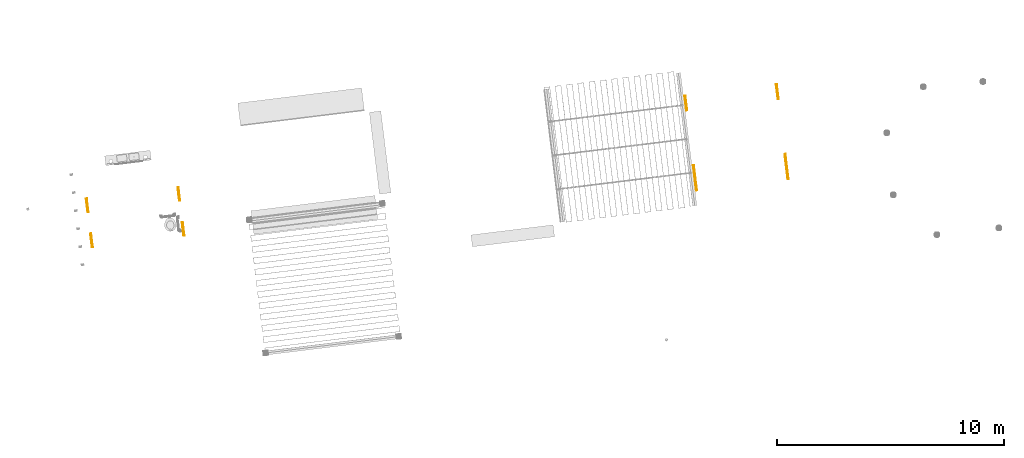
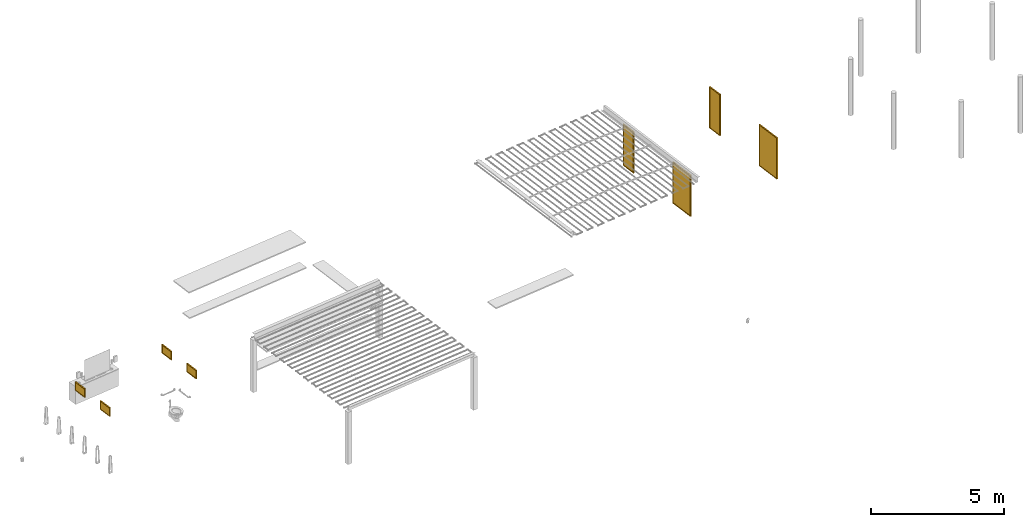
# One storey, part 2 of 10: 1 window.
"""IFC2X3 building model written with IfcOpenShell, lengths in metres."""

from ifc_helpers import new_model, entity, si_unit, converted_unit, derived_unit, direction, frame, frame_2d, origin, origin_2d_with_axis, place, context, subcontext, project, spatial, polyline, rectangle, outline, extrude, source, transform, mapped, material, material_list, type_object, type_shapes, element, save


model = new_model("IFC2X3")

# Units and contexts
model_context = context("Model", 3, precision=1e-05, world=origin(), true_north=direction((6.123031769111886e-17, 1.0)))
body_context = subcontext(model_context, "Body", "Model", "MODEL_VIEW")
ifc_project = project(units=[si_unit("LENGTHUNIT", "METRE"), si_unit("AREAUNIT", "SQUARE_METRE"), si_unit("VOLUMEUNIT", "CUBIC_METRE"), converted_unit("PLANEANGLEUNIT", "DEGREE", entity("IfcRatioMeasure", 0.017453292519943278), si_unit("PLANEANGLEUNIT", "RADIAN"), dimensions=[0, 0, 0, 0, 0, 0, 0]), si_unit("MASSUNIT", "GRAM", prefix="KILO"), derived_unit("MASSDENSITYUNIT", [(si_unit("MASSUNIT", "GRAM", prefix="KILO"), 1), (si_unit("LENGTHUNIT", "METRE"), -3)]), derived_unit("IONCONCENTRATIONUNIT", [(si_unit("MASSUNIT", "GRAM", prefix="KILO"), 1), (si_unit("LENGTHUNIT", "METRE"), -3)]), derived_unit("MOMENTOFINERTIAUNIT", [(si_unit("LENGTHUNIT", "METRE"), 4)]), si_unit("TIMEUNIT", "SECOND"), si_unit("FREQUENCYUNIT", "HERTZ"), si_unit("THERMODYNAMICTEMPERATUREUNIT", "DEGREE_CELSIUS"), derived_unit("THERMALTRANSMITTANCEUNIT", [(si_unit("MASSUNIT", "GRAM", prefix="KILO"), 1), (si_unit("THERMODYNAMICTEMPERATUREUNIT", "KELVIN"), -1), (si_unit("TIMEUNIT", "SECOND"), -3)]), derived_unit("THERMALCONDUCTANCEUNIT", [(si_unit("MASSUNIT", "GRAM", prefix="KILO"), 1), (si_unit("THERMODYNAMICTEMPERATUREUNIT", "KELVIN"), -1), (si_unit("TIMEUNIT", "SECOND"), -3), (si_unit("LENGTHUNIT", "METRE"), 1)]), derived_unit("VOLUMETRICFLOWRATEUNIT", [(si_unit("LENGTHUNIT", "METRE"), 3), (si_unit("TIMEUNIT", "SECOND"), -1)]), derived_unit("MASSFLOWRATEUNIT", [(si_unit("MASSUNIT", "GRAM", prefix="KILO"), 1), (si_unit("TIMEUNIT", "SECOND"), -1)]), derived_unit("ROTATIONALFREQUENCYUNIT", [(si_unit("TIMEUNIT", "SECOND"), -1)]), si_unit("ELECTRICCURRENTUNIT", "AMPERE"), si_unit("ELECTRICVOLTAGEUNIT", "VOLT"), si_unit("POWERUNIT", "WATT"), si_unit("FORCEUNIT", "NEWTON", prefix="KILO"), si_unit("ILLUMINANCEUNIT", "LUX"), si_unit("LUMINOUSFLUXUNIT", "LUMEN"), si_unit("LUMINOUSINTENSITYUNIT", "CANDELA"), derived_unit("USERDEFINED", [(si_unit("MASSUNIT", "GRAM", prefix="KILO"), -1), (si_unit("LENGTHUNIT", "METRE"), -2), (si_unit("TIMEUNIT", "SECOND"), 3), (si_unit("LUMINOUSFLUXUNIT", "LUMEN"), 1)]), derived_unit("USERDEFINED", [(si_unit("MASSUNIT", "GRAM", prefix="KILO"), 1), (si_unit("TIMEUNIT", "SECOND"), -3), (si_unit("LENGTHUNIT", "METRE"), 3), (si_unit("ELECTRICCURRENTUNIT", "AMPERE"), -2)]), derived_unit("SOUNDPOWERUNIT", [(si_unit("MASSUNIT", "GRAM", prefix="KILO"), 1), (si_unit("TIMEUNIT", "SECOND"), -3), (si_unit("LENGTHUNIT", "METRE"), 2)]), derived_unit("SOUNDPRESSUREUNIT", [(si_unit("MASSUNIT", "GRAM", prefix="KILO"), 1), (si_unit("LENGTHUNIT", "METRE"), -1), (si_unit("TIMEUNIT", "SECOND"), -2)]), derived_unit("LINEARVELOCITYUNIT", [(si_unit("LENGTHUNIT", "METRE"), 1), (si_unit("TIMEUNIT", "SECOND"), -1)]), si_unit("PRESSUREUNIT", "PASCAL"), derived_unit("USERDEFINED", [(si_unit("MASSUNIT", "GRAM", prefix="KILO"), 1), (si_unit("LENGTHUNIT", "METRE"), -2), (si_unit("TIMEUNIT", "SECOND"), -2)]), derived_unit("LINEARFORCEUNIT", [(si_unit("MASSUNIT", "GRAM", prefix="KILO"), 1), (si_unit("TIMEUNIT", "SECOND"), -2)]), derived_unit("PLANARFORCEUNIT", [(si_unit("MASSUNIT", "GRAM", prefix="KILO"), 1), (si_unit("LENGTHUNIT", "METRE"), -1), (si_unit("TIMEUNIT", "SECOND"), -2)]), derived_unit("SPECIFICHEATCAPACITYUNIT", [(si_unit("THERMODYNAMICTEMPERATUREUNIT", "KELVIN"), -1), (si_unit("LENGTHUNIT", "METRE"), 2), (si_unit("TIMEUNIT", "SECOND"), -2)]), derived_unit("HEATINGVALUEUNIT", [(si_unit("LENGTHUNIT", "METRE"), 2), (si_unit("TIMEUNIT", "SECOND"), -2)]), derived_unit("VAPORPERMEABILITYUNIT", [(si_unit("LENGTHUNIT", "METRE"), -1), (si_unit("TIMEUNIT", "SECOND"), 1)]), derived_unit("DYNAMICVISCOSITYUNIT", [(si_unit("MASSUNIT", "GRAM", prefix="KILO"), 1), (si_unit("TIMEUNIT", "SECOND"), -1), (si_unit("LENGTHUNIT", "METRE"), -1)]), derived_unit("THERMALEXPANSIONCOEFFICIENTUNIT", [(si_unit("THERMODYNAMICTEMPERATUREUNIT", "KELVIN"), -1)]), derived_unit("MODULUSOFELASTICITYUNIT", [(si_unit("MASSUNIT", "GRAM", prefix="KILO"), 1), (si_unit("LENGTHUNIT", "METRE"), -1), (si_unit("TIMEUNIT", "SECOND"), -2)]), derived_unit("ISOTHERMALMOISTURECAPACITYUNIT", [(si_unit("LENGTHUNIT", "METRE"), 3), (si_unit("MASSUNIT", "GRAM", prefix="KILO"), -1)]), derived_unit("MOISTUREDIFFUSIVITYUNIT", [(si_unit("TIMEUNIT", "SECOND"), -1), (si_unit("LENGTHUNIT", "METRE"), 2)])], contexts=[model_context])

# Site, building, storey
site_placement = place(None, origin())
site = spatial("IfcSite", under=ifc_project, at=site_placement, Name="Default", CompositionType="ELEMENT")
building_placement = place(site_placement, origin())
building = spatial("IfcBuilding", under=site, at=building_placement, Name="Projeto", CompositionType="ELEMENT")
storey_placement = place(building_placement, frame((0.0, 0.0, -2.581035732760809)))
storey = spatial("IfcBuildingStorey", under=building, at=storey_placement, Name="Nível 9", CompositionType="ELEMENT", Elevation=-2.581035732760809)

# Window
ifc_material_1 = material(Name="Vidro")
ifc_material_2 = material(Name=".Aço escovado")
ifc_material_list = material_list([ifc_material_1, ifc_material_2])
window_style = type_object("IfcWindowStyle", Name="Janelas 1:Janelas 1", ConstructionType="NOTDEFINED", OperationType="NOTDEFINED", ParameterTakesPrecedence=False, Sizeable=False, material=ifc_material_list)
shared_shape = source(origin(), body_context, "Body", "SweptSolid", [
    extrude(rectangle(XDim=0.009999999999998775, YDim=1.080000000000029, at=frame_2d((-2.6194324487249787e-16, -2.1649348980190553e-15), x_axis=(1.0, 0.0))), frame((12.318177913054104, 31.216350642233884, -2.29800209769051), z_axis=(0.0, 0.0, 1.0), x_axis=(0.9925113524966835, 0.12215242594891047, 0.0)), (0.0, 0.0, 1.0), 1.9000000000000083),
    extrude(rectangle(XDim=0.010000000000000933, YDim=0.6400000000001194, at=frame_2d((-5.37330596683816e-16, 8.326672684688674e-17), x_axis=(1.0, 0.0))), frame((7.8768535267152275, 34.0287467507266, -2.2780020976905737), z_axis=(0.0, 0.0, 1.0), x_axis=(0.9925113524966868, 0.1221524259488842, 0.0)), (0.0, 0.0, 1.0), 1.8600000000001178),
    extrude(rectangle(XDim=0.009999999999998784, YDim=0.6200000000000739, at=frame_2d((8.101158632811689e-16, -2.275957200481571e-15), x_axis=(1.0, 0.0))), frame((11.912161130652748, 34.51531308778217, -2.2780020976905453), z_axis=(0.0, 0.0, 1.0), x_axis=(0.9925113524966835, 0.12215242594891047, 0.0)), (0.0, 0.0, 1.0), 1.8600000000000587),
    extrude(rectangle(XDim=0.010683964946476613, YDim=0.565212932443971, at=origin_2d_with_axis()), frame((-18.509084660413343, 29.511886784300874, -0.6098354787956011), z_axis=(0.0, 0.0, 1.0), x_axis=(-0.9925113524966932, -0.12215242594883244, 0.0)), (0.0, 0.0, 1.0), 0.36000000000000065),
    extrude(outline(polyline([(-0.3026064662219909, -0.1999999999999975), (0.3026064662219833, -0.1999999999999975), (0.3026064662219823, 0.20000000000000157), (-0.3026064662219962, 0.20000000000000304), (-0.3026064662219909, -0.1999999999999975)]), holes=[polyline([(-0.2826064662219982, -0.18000000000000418), (-0.2826064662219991, 0.1800000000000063), (0.28260646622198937, 0.18000000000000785), (0.28260646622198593, -0.1800000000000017), (-0.2826064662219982, -0.18000000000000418)])]), frame((-18.529350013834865, 29.509392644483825, -0.4298354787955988), z_axis=(0.9925113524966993, 0.12215242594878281, 0.0), x_axis=(-0.12215242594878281, 0.9925113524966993, 0.0)), (0.0, 0.0, 1.0), 0.04999999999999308),
    extrude(rectangle(XDim=0.010683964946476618, YDim=0.5652129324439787, at=frame_2d((-1.076829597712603e-15, 1.3877787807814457e-16), x_axis=(1.0, 0.0))), frame((-14.461017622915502, 30.010098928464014, -0.6098354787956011), z_axis=(0.0, 0.0, 1.0), x_axis=(0.9925113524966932, 0.12215242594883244, 0.0)), (0.0, 0.0, 1.0), 0.36000000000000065),
    extrude(outline(polyline([(-0.3026064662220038, -0.20000000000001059), (0.3026064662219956, -0.20000000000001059), (0.30260646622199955, 0.20000000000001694), (-0.3026064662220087, 0.2000000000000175), (-0.3026064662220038, -0.20000000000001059)]), holes=[polyline([(-0.28260646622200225, -0.180000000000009), (-0.2826064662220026, 0.1800000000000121), (0.28260646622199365, 0.1800000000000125), (0.28260646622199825, -0.18000000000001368), (-0.28260646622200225, -0.180000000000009)])]), frame((-14.490377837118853, 30.006485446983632, -0.4298354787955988), z_axis=(0.9925113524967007, 0.12215242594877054, 0.0), x_axis=(-0.12215242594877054, 0.9925113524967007, 0.0)), (0.0, 0.0, 1.0), 0.049999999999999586),
    extrude(rectangle(XDim=0.010683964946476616, YDim=0.5652129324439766, at=frame_2d((5.460042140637e-16, -4.413136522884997e-15), x_axis=(1.0, 0.0))), frame((-18.319111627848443, 27.9683202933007, -0.6098354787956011), z_axis=(0.0, 0.0, 1.0), x_axis=(-0.9925113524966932, -0.12215242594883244, 0.0)), (0.0, 0.0, 1.0), 0.36000000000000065),
    extrude(outline(polyline([(-0.19999999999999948, -0.30260646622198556), (0.19999999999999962, -0.30260646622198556), (0.19999999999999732, 0.3026064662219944), (-0.19999999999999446, 0.30260646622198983), (-0.19999999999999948, -0.30260646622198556)]), holes=[polyline([(-0.17999999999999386, -0.2826064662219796), (-0.1799999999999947, 0.2826064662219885), (0.17999999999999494, 0.2826064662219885), (0.17999999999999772, -0.2826064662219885), (-0.17999999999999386, -0.2826064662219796)])]), frame((-18.339376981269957, 27.96582615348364, -0.429835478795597), z_axis=(0.9925113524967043, 0.1221524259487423, 0.0), x_axis=(0.0, 0.0, 1.0)), (0.0, 0.0, 1.0), 0.0499999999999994),
    extrude(rectangle(XDim=0.010683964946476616, YDim=0.5652129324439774, at=frame_2d((5.28656979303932e-16, 4.3021142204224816e-15), x_axis=(1.0, 0.0))), frame((-14.271044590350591, 28.466532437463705, -0.6098354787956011), z_axis=(0.0, 0.0, 1.0), x_axis=(0.9925113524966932, 0.12215242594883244, 0.0)), (0.0, 0.0, 1.0), 0.36000000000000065),
    extrude(outline(polyline([(-0.19999999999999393, -0.30260646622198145), (0.20000000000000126, -0.30260646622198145), (0.19999999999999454, 0.3026064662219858), (-0.1999999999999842, 0.30260646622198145), (-0.19999999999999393, -0.30260646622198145)]), holes=[polyline([(-0.1800000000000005, -0.2826064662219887), (-0.18000000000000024, 0.2826064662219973), (0.18000000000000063, 0.28260646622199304), (0.1800000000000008, -0.2826064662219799), (-0.1800000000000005, -0.2826064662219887)])]), frame((-14.300404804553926, 28.462918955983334, -0.4298354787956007), z_axis=(0.9925113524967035, 0.12215242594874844, 0.0), x_axis=(0.0, 0.0, 1.0)), (0.0, 0.0, 1.0), 0.049999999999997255),
    extrude(rectangle(XDim=0.007471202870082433, YDim=1.0800000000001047, at=frame_2d((-5.37330596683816e-16, 5.551115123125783e-17), x_axis=(1.0, 0.0))), frame((8.28690966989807, 30.720205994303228, -2.2780020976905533), z_axis=(0.0, 0.0, 1.0), x_axis=(0.9925113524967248, 0.12215242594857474, 0.0)), (0.0, 0.0, 1.0), 1.8600000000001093),
    extrude(outline(polyline([(-0.9500000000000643, -0.5600000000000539), (0.9500000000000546, -0.5600000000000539), (0.9500000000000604, 0.5600000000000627), (-0.9500000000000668, 0.5600000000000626), (-0.9500000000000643, -0.5600000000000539)]), holes=[polyline([(0.9300000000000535, -0.5400000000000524), (-0.930000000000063, -0.5400000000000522), (-0.9300000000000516, 0.5400000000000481), (0.930000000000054, 0.5400000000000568), (0.9300000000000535, -0.5400000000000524)])]), frame((8.259279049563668, 30.716805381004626, -1.3480020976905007), z_axis=(0.9925113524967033, 0.12215242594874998, 0.0), x_axis=(0.0, 0.0, 1.0)), (0.0, 0.0, 1.0), 0.04999999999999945),
    extrude(outline(polyline([(-0.9500000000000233, -0.5600000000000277), (0.9500000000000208, -0.5600000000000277), (0.9500000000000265, 0.5600000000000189), (-0.9500000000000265, 0.5600000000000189), (-0.9500000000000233, -0.5600000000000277)]), holes=[polyline([(0.9300000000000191, -0.5400000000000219), (-0.9300000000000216, -0.5400000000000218), (-0.9300000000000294, 0.5400000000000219), (0.9300000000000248, 0.5400000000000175), (0.9300000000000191, -0.5400000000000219)])]), frame((12.2933651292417, 31.213296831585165, -1.3480020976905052), z_axis=(0.9925113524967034, 0.12215242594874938, 0.0), x_axis=(0.0, 0.0, 1.0)), (0.0, 0.0, 1.0), 0.05000000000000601),
    extrude(outline(polyline([(-0.9500000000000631, -0.3300000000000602), (0.9500000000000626, -0.3300000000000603), (0.9500000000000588, 0.33000000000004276), (-0.9500000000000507, 0.33000000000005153), (-0.9500000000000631, -0.3300000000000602)]), holes=[polyline([(0.9300000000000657, -0.31000000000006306), (-0.9300000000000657, -0.3100000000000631), (-0.9300000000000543, 0.31000000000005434), (0.9300000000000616, 0.3100000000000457), (0.9300000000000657, -0.31000000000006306)])]), frame((7.853262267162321, 34.0157678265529, -1.3480020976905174), z_axis=(0.9925113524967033, 0.1221524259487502, 0.0), x_axis=(0.0, 0.0, 1.0)), (0.0, 0.0, 1.0), 0.05000000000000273),
    extrude(outline(polyline([(-0.3300000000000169, -0.9500000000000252), (0.33000000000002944, -0.9500000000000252), (0.33000000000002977, 0.9500000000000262), (-0.3300000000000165, 0.9500000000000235), (-0.3300000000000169, -0.9500000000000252)]), holes=[polyline([(0.3100000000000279, -0.9300000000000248), (-0.31000000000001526, -0.9300000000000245), (-0.3100000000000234, 0.9300000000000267), (0.3100000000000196, 0.9300000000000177), (0.3100000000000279, -0.9300000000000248)])]), frame((11.887348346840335, 34.51225927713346, -1.3480020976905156), z_axis=(0.9925113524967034, 0.12215242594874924, 0.0), x_axis=(0.12215242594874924, -0.9925113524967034, 0.0)), (0.0, 0.0, 1.0), 0.04999999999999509),
])
type_shapes(window_style, [shared_shape])
window_placement = place(storey_placement, frame((0.0, 0.0, 2.581035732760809)))
element("IfcWindow", 1, at=window_placement, inside=storey, type_object=window_style, material=ifc_material_list, Name="Janelas 1:Janelas 1", ObjectType="Janelas 1:Janelas 1", OverallHeight=7.180409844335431, OverallWidth=30.977710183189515, context=body_context, shape_type="MappedRepresentation", body=[
    mapped(shared_shape, transform((0.0, 0.0, 0.0), scale=1.0)),
])

save(model, "model.ifc")
